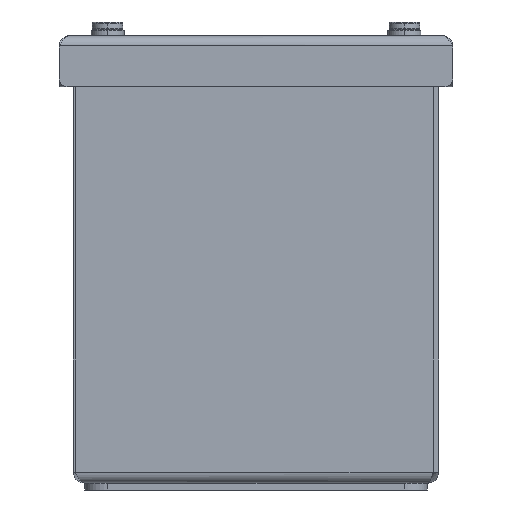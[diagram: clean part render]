
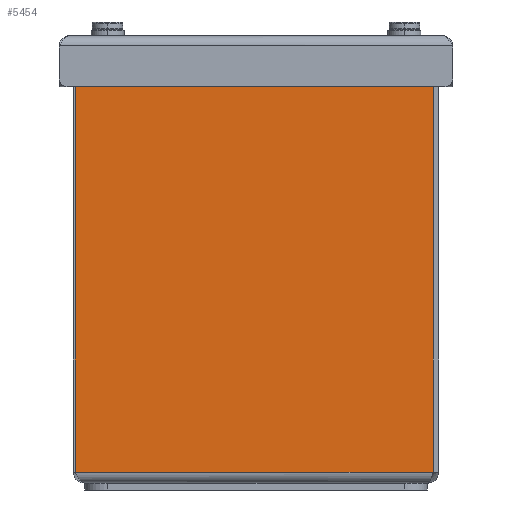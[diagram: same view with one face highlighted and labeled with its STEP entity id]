
A CAD part, left-side view. The second image highlights one B-rep face of the part: STEP entity #5454.
In plain terms, the highlighted planar face has unit normal (-1, 0, 0).
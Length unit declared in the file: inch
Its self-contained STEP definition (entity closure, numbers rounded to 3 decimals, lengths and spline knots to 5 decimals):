
#270=DIRECTION('',(0.,-1.,0.));
#271=VECTOR('',#270,3.918);
#272=CARTESIAN_POINT('',(0.,3.978,0.12));
#273=LINE('',#272,#271);
#1673=DIRECTION('',(0.,-1.,0.));
#1674=VECTOR('',#1673,3.22175);
#1675=CARTESIAN_POINT('',(0.,3.978,4.638));
#1676=LINE('',#1675,#1674);
#1767=DIRECTION('',(0.,0.,1.));
#1768=VECTOR('',#1767,0.052);
#1769=CARTESIAN_POINT('',(0.,0.75625,4.638));
#1770=LINE('',#1769,#1768);
#1774=DIRECTION('',(0.,1.,0.));
#1775=VECTOR('',#1774,0.64425);
#1776=CARTESIAN_POINT('',(0.,0.112,4.69));
#1777=LINE('',#1776,#1775);
#1781=CARTESIAN_POINT('',(0.,0.112,4.638));
#1782=DIRECTION('',(-1.,0.,0.));
#1783=DIRECTION('',(0.,-1.,0.));
#1784=AXIS2_PLACEMENT_3D('',#1781,#1782,#1783);
#1789=DIRECTION('',(0.,0.,1.));
#1790=VECTOR('',#1789,4.518);
#1791=CARTESIAN_POINT('',(0.,3.978,0.12));
#1792=LINE('',#1791,#1790);
#1838=DIRECTION('',(0.,0.,1.));
#1839=VECTOR('',#1838,4.518);
#1840=CARTESIAN_POINT('',(0.,0.06,0.12));
#1841=LINE('',#1840,#1839);
#3503=CARTESIAN_POINT('',(0.,0.75625,4.638));
#3504=CARTESIAN_POINT('',(0.,0.75625,4.69));
#3505=VERTEX_POINT('',#3503);
#3506=VERTEX_POINT('',#3504);
#3551=CARTESIAN_POINT('',(0.,0.06,4.638));
#3552=CARTESIAN_POINT('',(0.,0.112,4.69));
#3553=VERTEX_POINT('',#3551);
#3554=VERTEX_POINT('',#3552);
#3559=CARTESIAN_POINT('',(0.,0.06,0.12));
#3560=VERTEX_POINT('',#3559);
#3563=CARTESIAN_POINT('',(0.,3.978,0.12));
#3564=CARTESIAN_POINT('',(0.,3.978,4.638));
#3565=VERTEX_POINT('',#3563);
#3566=VERTEX_POINT('',#3564);
#5435=CARTESIAN_POINT('',(0.,4.,0.));
#5436=DIRECTION('',(-1.,0.,0.));
#5437=DIRECTION('',(0.,-1.,0.));
#5438=AXIS2_PLACEMENT_3D('',#5435,#5436,#5437);
#5439=PLANE('',#5438);
#5440=ORIENTED_EDGE('',*,*,#5424,.T.);
#5442=ORIENTED_EDGE('',*,*,#5441,.T.);
#5444=ORIENTED_EDGE('',*,*,#5443,.F.);
#5446=ORIENTED_EDGE('',*,*,#5445,.F.);
#5448=ORIENTED_EDGE('',*,*,#5447,.F.);
#5449=ORIENTED_EDGE('',*,*,#4108,.F.);
#5451=ORIENTED_EDGE('',*,*,#5450,.T.);
#5452=EDGE_LOOP('',(#5440,#5442,#5444,#5446,#5448,#5449,#5451));
#5453=FACE_OUTER_BOUND('',#5452,.F.);
#1785=CIRCLE('',#1784,0.052);
#4108=EDGE_CURVE('',#3565,#3560,#273,.T.);
#5424=EDGE_CURVE('',#3566,#3505,#1676,.T.);
#5441=EDGE_CURVE('',#3505,#3506,#1770,.T.);
#5443=EDGE_CURVE('',#3554,#3506,#1777,.T.);
#5445=EDGE_CURVE('',#3553,#3554,#1785,.T.);
#5447=EDGE_CURVE('',#3560,#3553,#1841,.T.);
#5450=EDGE_CURVE('',#3565,#3566,#1792,.T.);
#5454=ADVANCED_FACE('',(#5453),#5439,.T.);
